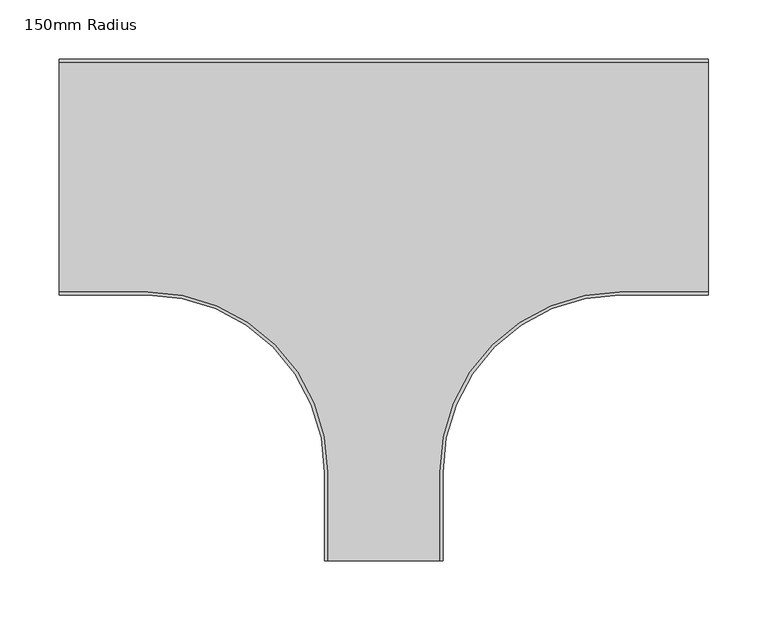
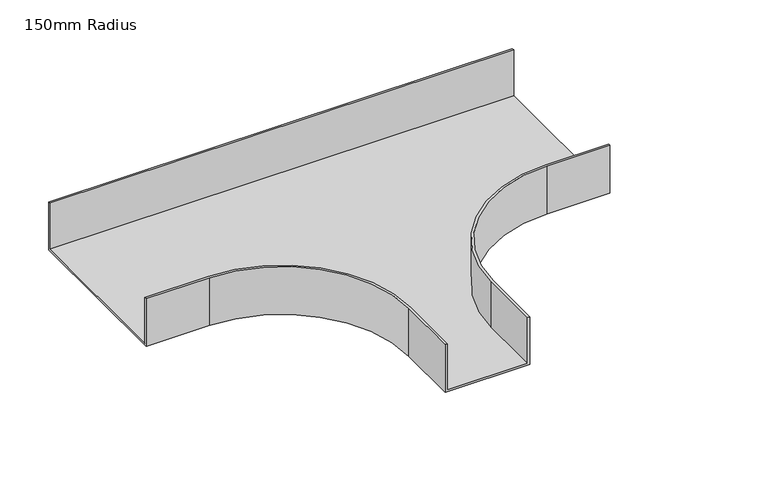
"""IFC4 building model written with IfcOpenShell, lengths in millimetres: cable carrier fitting geometry, AI_Raccord cdc_Té : 150mm Radius."""

from ifc_helpers import new_model, si_unit, frame, origin, place, context, project, spatial, polyline, circle_curve, source, transform, mapped, element, save
from ifc_brep_helpers import plane_surface, cylinder_surface, revolved_surface, advanced_brep


def cable_carrier_fitting_150mm_radius_0ad93986(model_context):
    return source(origin(), model_context, "Body", "AdvancedBrep", [
        advanced_brep(
        [(-50.0, -250.0, 30.0), (-50.0, -325.0, 30.0), (-47.46, -325.0, 30.0), (-47.46, -250.0, 30.0), (-200.0, -97.46, 30.0), (-275.0, -97.46, 30.0), (-275.0, -100.0, 30.0), (-200.0, -100.0, 30.0), (50.0, -250.0, 30.0), (200.0, -100.0, 30.0), (275.0, -100.0, 30.0), (275.0, -97.46, 30.0), (200.0, -97.46, 30.0), (47.46, -250.0, 30.0), (47.46, -325.0, 30.0), (50.0, -325.0, 30.0), (275.0, 100.0, 30.0), (-275.0, 100.0, 30.0), (-275.0, 97.46, 30.0), (275.0, 97.46, 30.0), (-50.0, -250.0, -30.0), (-200.0, -100.0, -30.0), (-275.0, -100.0, -30.0), (-275.0, 100.0, -30.0), (275.0, 100.0, -30.0), (275.0, -100.0, -30.0), (200.0, -100.0, -30.0), (50.0, -250.0, -30.0), (50.0, -325.0, -30.0), (-50.0, -325.0, -30.0), (-50.0, -250.0, -27.46), (47.46, -325.0, -27.46), (-47.46, -325.0, -27.46), (-47.46, -250.0, -27.46), (-200.0, -97.46, -27.46), (-275.0, -97.46, -27.46), (-275.0, 97.46, -27.46), (-200.0, -100.0, -27.46), (50.0, -250.0, -27.46), (200.0, -100.0, -27.46), (275.0, 97.46, -27.46), (275.0, -97.46, -27.46), (200.0, -97.46, -27.46), (47.46, -250.0, -27.46)],
        [
            (0, 1),
            (1, 2),
            (2, 3),
            (3, 4, circle_curve(frame((-200.0, -250.0, 30.0), z_axis=(0.0, 0.0, 1.0), x_axis=(1.0, 0.0, 0.0)), 152.54)),
            (4, 5),
            (5, 6),
            (6, 7),
            (7, 0, circle_curve(frame((-200.0, -250.0, 30.0), z_axis=(0.0, 0.0, -1.0), x_axis=(1.0, 0.0, 0.0)), 150.0)),
            (8, 9, circle_curve(frame((200.0, -250.0, 30.0), z_axis=(0.0, 0.0, -1.0), x_axis=(1.0, 0.0, 0.0)), 150.0)),
            (9, 10),
            (10, 11),
            (11, 12),
            (12, 13, circle_curve(frame((200.0, -250.0, 30.0), z_axis=(0.0, 0.0, 1.0), x_axis=(1.0, 0.0, 0.0)), 152.54)),
            (13, 14),
            (14, 15),
            (15, 8),
            (16, 17),
            (17, 18),
            (18, 19),
            (19, 16),
            (20, 21, circle_curve(frame((-200.0, -250.0, -30.0), z_axis=(0.0, 0.0, 1.0), x_axis=(1.0, 0.0, 0.0)), 150.0)),
            (21, 22),
            (22, 23),
            (23, 24),
            (24, 25),
            (25, 26),
            (26, 27, circle_curve(frame((200.0, -250.0, -30.0), z_axis=(0.0, 0.0, 1.0), x_axis=(1.0, 0.0, 0.0)), 150.0)),
            (27, 28),
            (28, 29),
            (29, 20),
            (29, 1),
            (0, 30),
            (30, 20),
            (28, 15),
            (14, 31),
            (31, 32),
            (32, 2),
            (32, 33),
            (33, 3),
            (33, 34, circle_curve(frame((-200.0, -250.0, -27.46), z_axis=(0.0, 0.0, 1.0), x_axis=(1.0, 0.0, 0.0)), 152.54)),
            (34, 4),
            (34, 35),
            (35, 5),
            (35, 36),
            (36, 18),
            (17, 23),
            (22, 6),
            (21, 37),
            (37, 7),
            (8, 38),
            (38, 27),
            (26, 39),
            (39, 9),
            (25, 10),
            (24, 16),
            (19, 40),
            (40, 41),
            (41, 11),
            (41, 42),
            (42, 12),
            (42, 43, circle_curve(frame((200.0, -250.0, -27.46), z_axis=(0.0, 0.0, 1.0), x_axis=(1.0, 0.0, 0.0)), 152.54)),
            (43, 13),
            (43, 31),
            (36, 40),
        ],
        [
            plane_surface(frame((-50.0, -250.0, 30.0), z_axis=(0.0, 0.0, 1.0), x_axis=(0.0, -1.0, 0.0))),
            plane_surface(frame((-50.0, -250.0, -30.0), z_axis=(0.0, 0.0, -1.0), x_axis=(0.0, 1.0, 0.0))),
            plane_surface(frame((-50.0, -250.0, 30.0), z_axis=(-1.0, 0.0, 0.0), x_axis=(0.0, 0.0, -1.0))),
            plane_surface(frame((-50.0, -325.0, 30.0), z_axis=(0.0, -1.0, 0.0), x_axis=(0.0, 0.0, -1.0))),
            plane_surface(frame((-47.46, -325.0, 30.0), z_axis=(1.0, 0.0, 0.0), x_axis=(0.0, 0.0, -1.0))),
            cylinder_surface(frame((-200.0, -250.0, -30.0), z_axis=(0.0, 0.0, 1.0), x_axis=(1.0, 0.0, 0.0)), 152.54),
            plane_surface(frame((-200.0, -97.46, 30.0), z_axis=(0.0, 1.0, 0.0), x_axis=(0.0, 0.0, -1.0))),
            plane_surface(frame((-275.0, -97.46, 30.0), z_axis=(-1.0, 0.0, 0.0), x_axis=(0.0, 0.0, -1.0))),
            plane_surface(frame((-275.0, -100.0, 30.0), z_axis=(0.0, -1.0, 0.0), x_axis=(0.0, 0.0, -1.0))),
            revolved_surface(polyline([(-50.0, -250.0, -30.0), (-50.0, -250.0, 30.0)]), (-200.0, -250.0, -30.0), (0.0, 0.0, -1.0)),
            revolved_surface(polyline([(350.0, -250.0, -30.0), (350.0, -250.0, 30.0)]), (200.0, -250.0, 0.0), (0.0, 0.0, -1.0)),
            plane_surface(frame((200.0, -100.0, 30.0), z_axis=(0.0, -1.0, 0.0), x_axis=(0.0, 0.0, -1.0))),
            plane_surface(frame((275.0, -100.0, 30.0), z_axis=(1.0, 0.0, 0.0), x_axis=(0.0, 0.0, -1.0))),
            plane_surface(frame((275.0, -97.46, 30.0), z_axis=(0.0, 1.0, 0.0), x_axis=(0.0, 0.0, -1.0))),
            cylinder_surface(frame((200.0, -250.0, 0.0), z_axis=(0.0, 0.0, 1.0), x_axis=(1.0, 0.0, 0.0)), 152.54),
            plane_surface(frame((47.46, -250.0, 30.0), z_axis=(-1.0, 0.0, 0.0), x_axis=(0.0, 0.0, -1.0))),
            plane_surface(frame((50.0, -325.0, 30.0), z_axis=(1.0, 0.0, 0.0), x_axis=(0.0, 0.0, -1.0))),
            plane_surface(frame((275.0, 100.0, 30.0), z_axis=(0.0, 1.0, 0.0), x_axis=(0.0, 0.0, -1.0))),
            plane_surface(frame((-275.0, 97.46, 30.0), z_axis=(0.0, -1.0, 0.0), x_axis=(0.0, 0.0, -1.0))),
            plane_surface(frame((-50.0, -250.0, -27.46), z_axis=(0.0, 0.0, 1.0), x_axis=(0.0, -1.0, 0.0))),
        ],
        [
            (0, [[1, 2, 3, 4, 5, 6, 7, 8]]),
            (0, [[9, 10, 11, 12, 13, 14, 15, 16]]),
            (0, [[17, 18, 19, 20]]),
            (1, [[21, 22, 23, 24, 25, 26, 27, 28, 29, 30]]),
            (2, [[31, -1, 32, 33, -30]]),
            (3, [[-2, -31, -29, 34, -15, 35, 36, 37]]),
            (4, [[-3, -37, 38, 39]]),
            (5, [[-4, -39, 40, 41]]),
            (6, [[-5, -41, 42, 43]]),
            (7, [[-6, -43, 44, 45, -18, 46, -23, 47]]),
            (8, [[-7, -47, -22, 48, 49]]),
            (9, [[-8, -49, -48, -21, -33, -32]]),
            (10, [[-9, 50, 51, -27, 52, 53]]),
            (11, [[54, -10, -53, -52, -26]]),
            (12, [[-11, -54, -25, 55, -20, 56, 57, 58]]),
            (13, [[-12, -58, 59, 60]]),
            (14, [[-13, -60, 61, 62]]),
            (15, [[-14, -62, 63, -35]]),
            (16, [[-16, -34, -28, -51, -50]]),
            (17, [[-46, -17, -55, -24]]),
            (18, [[-19, -45, 64, -56]]),
            (19, [[-36, -63, -61, -59, -57, -64, -44, -42, -40, -38]]),
        ],
    ),
    ])


if __name__ == "__main__":
    model = new_model("IFC4")
    model_context = context("Model", 3, world=origin())
    ifc_project = project(units=[si_unit("LENGTHUNIT", "METRE", prefix="MILLI")], contexts=[model_context])
    site = spatial("IfcSite", under=ifc_project)
    building = spatial("IfcBuilding", under=site)
    placement = place(None, origin())
    cable_carrier_fitting_150mm_radius_shape = cable_carrier_fitting_150mm_radius_0ad93986(model_context)
    element("IfcCableCarrierFitting", 1, ObjectType="AI_Raccord cdc_Té : 150mm Radius", at=placement, inside=building, context=model_context, shape_type="MappedRepresentation", body=[
        mapped(cable_carrier_fitting_150mm_radius_shape, transform((0.0, 0.0, 0.0), x_axis=(1.0, 0.0, 0.0), y_axis=(0.0, 1.0, 0.0), z_axis=(0.0, 0.0, 1.0))),
    ])
    save(model, "model.ifc")
